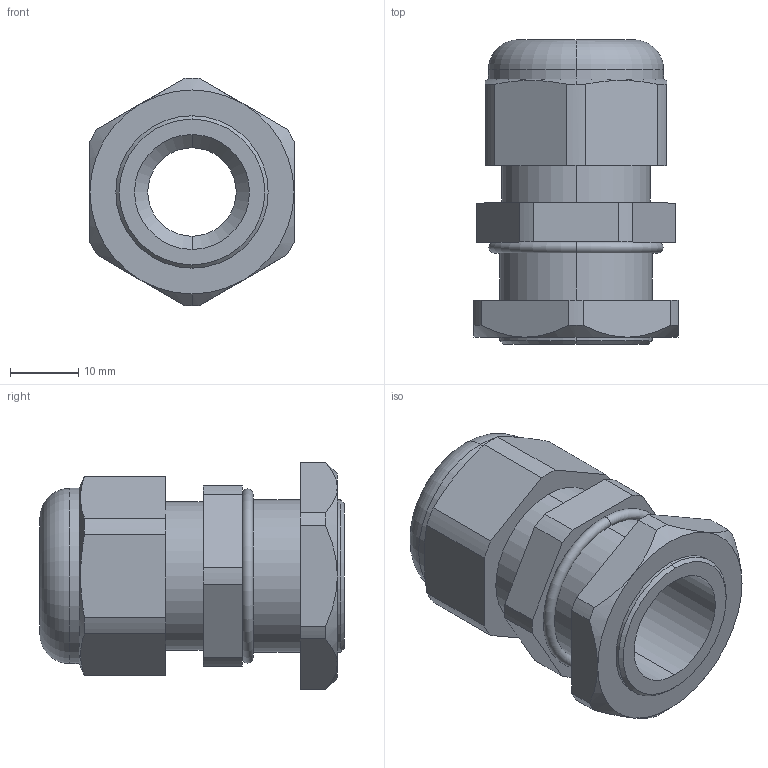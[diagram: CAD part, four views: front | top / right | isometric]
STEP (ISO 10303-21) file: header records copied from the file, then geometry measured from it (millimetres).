
FILE_DESCRIPTION (( 'STEP AP203' ), '1' );
FILE_NAME ('CH-PG16L.STEP', '2018-02-07T14:37:10', ( '' ), ( '' ), 'SwSTEP 2.0', 'SolidWorks 2012', '' );
FILE_SCHEMA (( 'CONFIG_CONTROL_DESIGN' ));
Length unit declared in the file: millimetre
Products named in the file (1): CH-PG16L
Bounding box: 30 x 44.75 x 33.5 mm (x, y, z)
Volume: 15576.6 mm3; surface area: 7928.2 mm2
Topology: 1 solids, 1 shells, 78 faces, 189 edges, 118 vertices
Faces by surface type: cylinder 34, plane 25, cone 15, torus 4
Entity records: 2478 total; most frequent: CARTESIAN_POINT 532, DIRECTION 415, ORIENTED_EDGE 378, EDGE_CURVE 189, AXIS2_PLACEMENT_3D 165, VERTEX_POINT 118, CIRCLE 86, VECTOR 85
